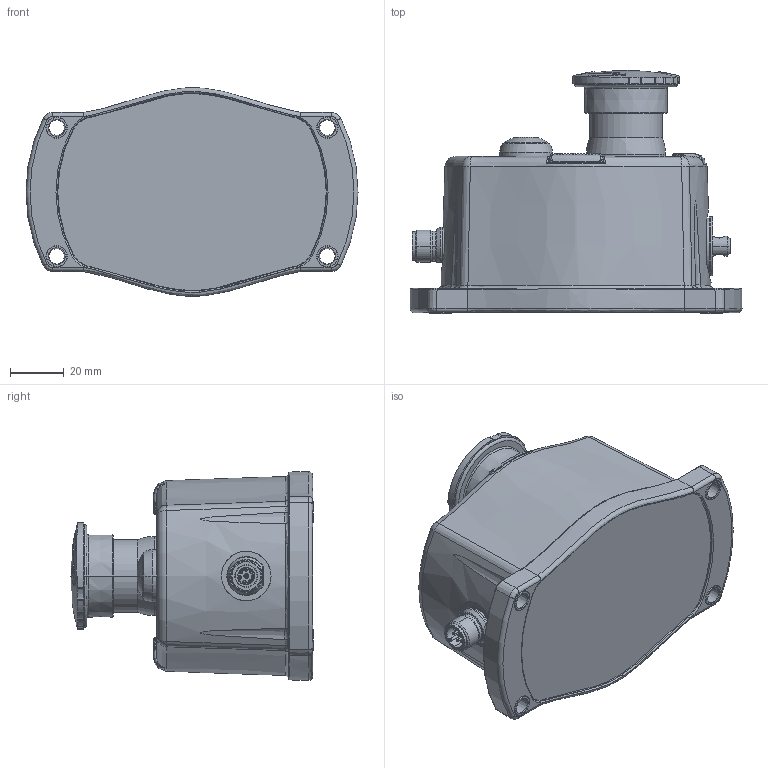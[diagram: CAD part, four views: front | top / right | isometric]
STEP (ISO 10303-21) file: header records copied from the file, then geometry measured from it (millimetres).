
FILE_DESCRIPTION((''),'2;1');
FILE_NAME('440E-LL5STD_ASM','2015-11-17T',('altsang'),('Rockwell Automation'),'PRO/ENGINEER BY PARAMETRIC TECHNOLOGY CORPORATION, 2012480','PRO/ENGINEER BY PARAMETRIC TECHNOLOGY CORPORATION, 2012480','');
FILE_SCHEMA(('CONFIG_CONTROL_DESIGN'));
Products named in the file (17): 10001726079; 10001834620; 800FD-MT4; MANIFOLD_SOLID_BREP_8878; MANIFOLD_SOLID_BREP_9432; IRR1S422_1_ASM; 10000043331; 10000043067; 10001872425; FACESEALQD_ASM; 10001872417; O-RING; F-26886; SUBSTRATE3_1THINHOLES; 10001892313; 10001872462; 440E-LL5STD_ASM
Assembly tree (25 placements, depth 3):
  440E-LL5STD_ASM
    10001726079
    10001834620  x3
    800FD-MT4
    IRR1S422_1_ASM
      MANIFOLD_SOLID_BREP_8878
      MANIFOLD_SOLID_BREP_9432
    FACESEALQD_ASM
      10000043331
      10000043067  x8
      10001872425
    10001872417
    O-RING
    F-26886
    SUBSTRATE3_1THINHOLES
    10001892313
    10001872462
Bounding box: 123.93 x 90.7 x 77.86 mm (x, y, z)
Volume: 143518.6 mm3; surface area: 89772.1 mm2
Topology: 23 solids, 24 shells, 2802 faces, 6956 edges, 4275 vertices
Faces by surface type: plane 994, cylinder 864, bspline 447, cone 272, torus 163, sphere 56, extrusion 6
Entity records: 91539 total; most frequent: CARTESIAN_POINT 44381, ORIENTED_EDGE 10260, DIRECTION 9151, EDGE_CURVE 5130, AXIS2_PLACEMENT_3D 3447, VERTEX_POINT 3210, VECTOR 2257, LINE 2251
